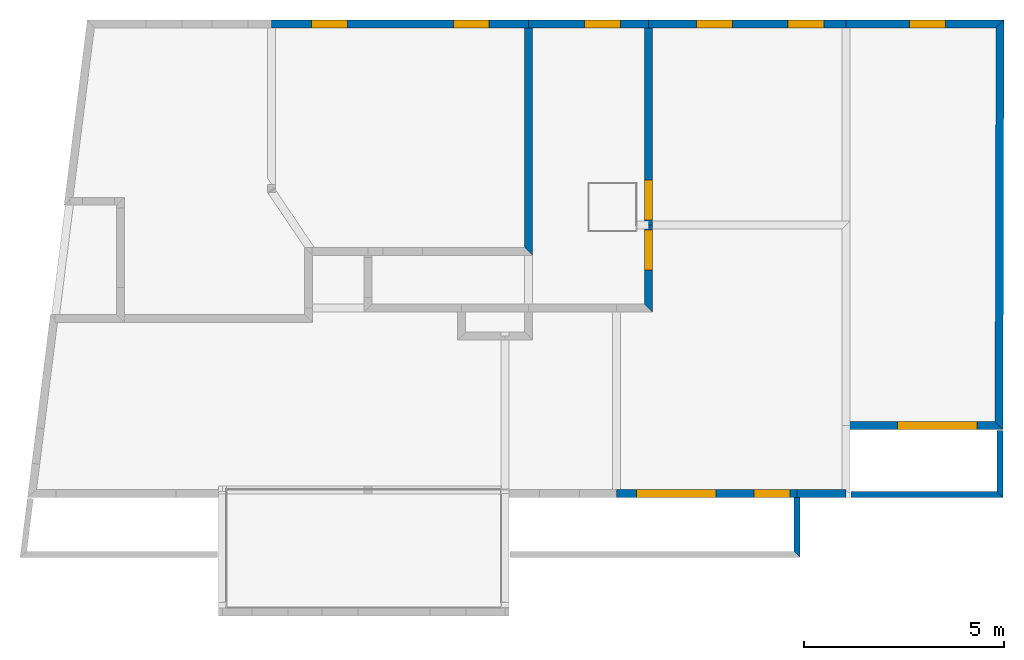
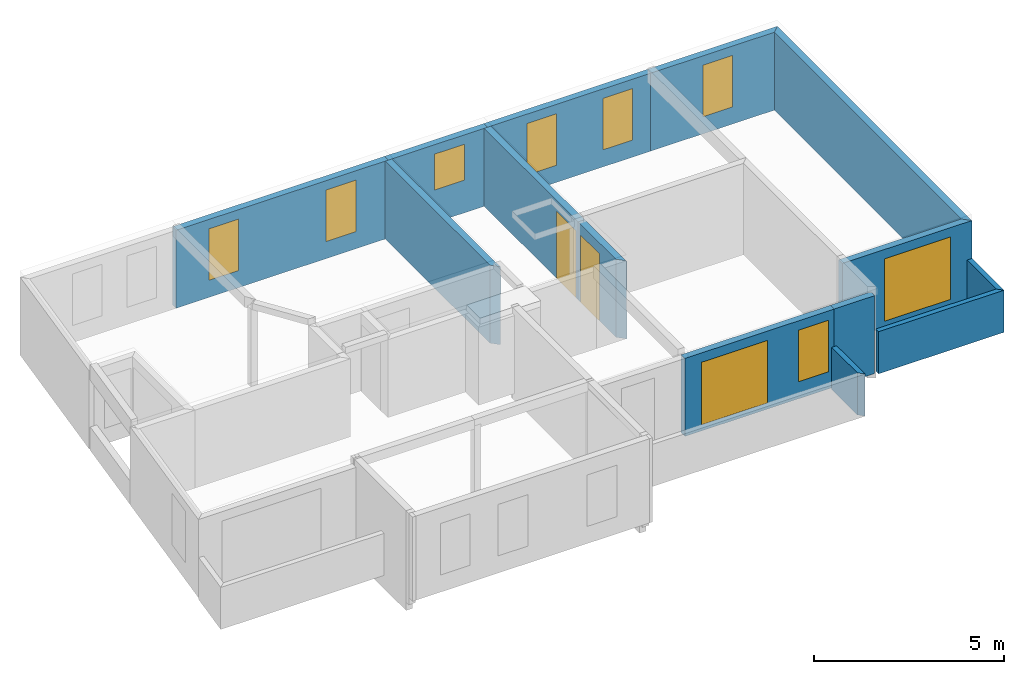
# One storey, part 10 of 11: 14 walls, 9 windows, 2 doors, 11 openings.
"""IFC2X3 building model written with IfcOpenShell, lengths in metres."""

from ifc_helpers import new_model, si_unit, direction, frame, origin_with_axes, origin_2d, place, context, subcontext, project, spatial, polyline, rectangle, outline, extrude, material, layer, layer_set, layer_usage, type_object, element, fill, save


model = new_model("IFC2X3")

# Units and contexts
model_context = context("Model", 3, precision=0.0001, world=origin_with_axes(), true_north=direction((0.0, 1.0)))
plan_context = context("Plan", 2, precision=0.0001, world=origin_with_axes(), true_north=direction((0.0, 1.0)))
body_context = subcontext(model_context, "Body", "Model", "MODEL_VIEW")
ifc_project = project(units=[si_unit("MASSUNIT", "GRAM", prefix="KILO"), si_unit("AREAUNIT", "SQUARE_METRE"), si_unit("LENGTHUNIT", "METRE"), si_unit("VOLUMEUNIT", "CUBIC_METRE")], contexts=[plan_context, model_context])

# Site, building, storey
site_placement = place(None, origin_with_axes())
site = spatial("IfcSite", under=ifc_project, at=site_placement, Name="$", CompositionType="ELEMENT")
building_placement = place(site_placement, origin_with_axes())
building = spatial("IfcBuilding", under=site, at=building_placement, Name="Classeur ENS Ensemble", CompositionType="ELEMENT")
storey_placement = place(building_placement, frame((-3.040468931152, -16.07714394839, 6.03), z_axis=(0.0, 0.0, 1.0), x_axis=(1.0, 0.0, 0.0)))
storey = spatial("IfcBuildingStorey", under=building, at=storey_placement, Name="003 R+2", CompositionType="ELEMENT", Elevation=6.03)

# Walls
ifc_material_1 = material(Name="mur BBM 15 cm")
ifc_layer_1 = layer(ifc_material_1, 0.1500000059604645)
ifc_layer_set_1 = layer_set([ifc_layer_1], Name="mur BBM 15 cm+")
ifc_layer_usage_1 = layer_usage(ifc_layer_set_1, "AXIS2", "POSITIVE", -0.07500000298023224)
wall_type = type_object("IfcWallType", PredefinedType="STANDARD")
wall_1_placement = place(storey_placement, frame((20.84097535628, 2.672143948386, -0.05000000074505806), z_axis=(0.0, 0.0, 1.0), x_axis=(0.0, 1.0, 0.0)))
element("IfcWall", 1, at=wall_1_placement, inside=storey, type_object=wall_type, material=ifc_layer_usage_1, Name="mur BBM 15 cm", context=body_context, shape_type="SweptSolid", held_by="IfcProductRepresentation", body=[
    extrude(outline(polyline([(0.07500000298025, 0.07500000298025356), (0.07500000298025, 0.07500000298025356), (0.07500000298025, 0.07500000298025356), (1.4249999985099, 0.07500000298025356), (1.4249999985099, 0.07500000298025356), (1.4249999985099, 0.07500000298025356), (1.4249999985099, -0.07500000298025), (1.4249999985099, -0.07500000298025), (1.4249999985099, -0.07500000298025), (-0.07500000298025, -0.07500000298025), (-0.07500000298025, -0.07500000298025), (-0.07500000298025, -0.07500000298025), (0.07500000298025, 0.07500000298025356)])), origin_with_axes(), (0.0, 0.0, 1.0), 1.350000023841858),
])
ifc_material_2 = material(Name="mur BBM 15 cm")
ifc_layer_2 = layer(ifc_material_2, 0.1500000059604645)
ifc_layer_set_2 = layer_set([ifc_layer_2], Name="mur BBM 15 cm+")
ifc_layer_usage_2 = layer_usage(ifc_layer_set_2, "AXIS2", "POSITIVE", -0.07500000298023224)
wall_2_placement = place(storey_placement, frame((25.91650726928, 4.172143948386, -0.05000000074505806), z_axis=(0.0, 0.0, 1.0), x_axis=(0.002535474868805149, 0.9999967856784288, 0.0)))
element("IfcWall", 2, at=wall_2_placement, inside=storey, type_object=wall_type, material=ifc_layer_usage_2, Name="mur BBM 15 cm", context=body_context, shape_type="SweptSolid", held_by="IfcProductRepresentation", body=[
    extrude(outline(polyline([(0.07481008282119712, 0.0750000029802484), (0.07481008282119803, 0.07500000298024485), (0.07481008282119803, 0.07500000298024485), (1.604858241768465, 0.07500000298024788), (1.604858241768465, 0.07500000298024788), (1.604858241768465, 0.07500000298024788), (1.604858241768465, -0.07500000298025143), (1.604858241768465, -0.07500000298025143), (1.604858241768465, -0.07500000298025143), (-0.07481008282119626, -0.07500000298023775), (-0.07481008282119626, -0.07500000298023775), (-0.07481008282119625, -0.0750000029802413), (0.07481008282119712, 0.0750000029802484)])), origin_with_axes(), (0.0, 0.0, 1.0), 1.350000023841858),
])
ifc_material_3 = material(Name="mur BBM 15 cm")
ifc_layer_3 = layer(ifc_material_3, 0.1500000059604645)
ifc_layer_set_3 = layer_set([ifc_layer_3], Name="mur BBM 15 cm+")
ifc_layer_usage_3 = layer_usage(ifc_layer_set_3, "AXIS2", "POSITIVE", -0.07500000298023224)
wall_3_placement = place(storey_placement, frame((22.18907065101, 4.172143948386, -0.05000000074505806), z_axis=(0.0, 0.0, 1.0), x_axis=(0.9999999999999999, 0.0, 0.0)))
element("IfcWall", 3, at=wall_3_placement, inside=storey, type_object=wall_type, material=ifc_layer_usage_3, Name="mur BBM 15 cm", context=body_context, shape_type="SweptSolid", held_by="IfcProductRepresentation", body=[
    extrude(outline(polyline([(0.0, 0.0750000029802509), (0.0, 0.0750000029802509), (0.0, 0.0750000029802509), (3.652626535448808, 0.0750000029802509), (3.652626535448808, 0.0750000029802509), (3.652626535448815, 0.0750000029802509), (3.80224670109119, -0.07500000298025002), (3.802246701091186, -0.07500000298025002), (3.802246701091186, -0.07500000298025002), (0.0, -0.07500000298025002), (0.0, -0.07500000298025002), (0.0, -0.07500000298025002), (0.0, 0.0750000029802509)])), origin_with_axes(), (0.0, 0.0, 1.0), 1.350000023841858),
])
ifc_material_4 = material(Name="mur BBM 20 cm")
ifc_layer_4 = layer(ifc_material_4, 0.2000000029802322)
ifc_layer_set_4 = layer_set([ifc_layer_4], Name="mur BBM 20 cm+")
ifc_layer_usage_4 = layer_usage(ifc_layer_set_4, "AXIS2", "POSITIVE", -0.1000000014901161)
wall_4_placement = place(storey_placement, frame((25.89588071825, 5.897187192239, 0.0), z_axis=(0.0, 0.0, 1.0), x_axis=(0.002540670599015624, 0.9999967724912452, 0.0)))
element("IfcWall", 4, at=wall_4_placement, inside=storey, type_object=wall_type, material=ifc_layer_usage_4, Name="mur BBM 20 cm", context=body_context, shape_type="SweptSolid", held_by="IfcProductRepresentation", body=[
    extrude(outline(polyline([(0.09974625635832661, 0.1000000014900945), (0.0997462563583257, 0.1000000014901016), (0.0997462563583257, 0.1000000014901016), (9.959734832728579, 0.1000000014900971), (9.959734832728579, 0.1000000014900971), (9.95973483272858, 0.1000000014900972), (10.16024361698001, -0.1000000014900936), (10.16024361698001, -0.1000000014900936), (10.16024361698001, -0.1000000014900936), (-0.09974625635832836, -0.1000000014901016), (-0.09974625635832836, -0.1000000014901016), (-0.09974625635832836, -0.1000000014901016), (0.09974625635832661, 0.1000000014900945)])), origin_with_axes(), (0.0, 0.0, 1.0), 2.5),
])

# Wall, opening, window
ifc_material_5 = material(Name="mur BBM 20 cm")
ifc_layer_5 = layer(ifc_material_5, 0.2000000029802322)
ifc_layer_set_5 = layer_set([ifc_layer_5], Name="mur BBM 20 cm+")
ifc_layer_usage_5 = layer_usage(ifc_layer_set_5, "AXIS2", "POSITIVE", -0.1000000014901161)
wall_5_placement = place(storey_placement, frame((22.06901778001, 5.897187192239, 0.0), z_axis=(0.0, 0.0, 1.0), x_axis=(1.0, 0.0, 0.0)))
wall_5 = element("IfcWall", 5, at=wall_5_placement, inside=storey, type_object=wall_type, material=ifc_layer_usage_5, Name="mur BBM 20 cm", context=body_context, shape_type="SweptSolid", held_by="IfcProductRepresentation", body=[
    extrude(outline(polyline([(0.0, 0.1000000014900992), (0.0, 0.1000000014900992), (0.0, 0.1000000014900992), (3.727116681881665, 0.1000000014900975), (3.727116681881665, 0.1000000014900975), (3.727116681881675, 0.1000000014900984), (3.926609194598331, -0.1000000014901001), (3.926609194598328, -0.1000000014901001), (3.926609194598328, -0.1000000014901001), (0.0, -0.1000000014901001), (0.0, -0.1000000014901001), (0.0, -0.1000000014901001), (0.0, 0.1000000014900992)])), origin_with_axes(), (0.0, 0.0, 1.0), 2.5),
])
opening_1_placement = place(wall_5_placement, frame((2.279156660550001, 0.1000000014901, 0.2000000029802), z_axis=(0.0, 0.0, 1.0), x_axis=(1.0, 0.0, 0.0)))
opening_1 = element("IfcOpeningElement", 6, at=opening_1_placement, cuts=wall_5, Name="BL 200 x 200", context=body_context, shape_type="SweptSolid", held_by="IfcProductRepresentation", body=[
    extrude(rectangle(XDim=2.0, YDim=2.0, at=origin_2d()), frame((0.0, 0.0, 1.0), z_axis=(0.0, -1.0, 0.0), x_axis=(1.0, 0.0, 0.0)), (0.0, 0.0, 1.0), 0.2000000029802),
])
window_1_placement = place(opening_1_placement, origin_with_axes())
window_1 = element("IfcWindow", 7, at=window_1_placement, inside=storey, Name="BL 200 x 200", OverallHeight=2.0, OverallWidth=2.0, context=body_context, shape_type="SweptSolid", held_by="IfcProductRepresentation", body=[
    extrude(rectangle(XDim=2.0, YDim=2.0, at=origin_2d()), frame((0.0, 0.0, 1.0), z_axis=(0.0, -1.0, 0.0), x_axis=(1.0, 0.0, 0.0)), (0.0, 0.0, 1.0), 0.2000000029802),
])
fill(opening_1, window_1)

# Wall
ifc_material_6 = material(Name="voile BA 20 cm")
ifc_layer_6 = layer(ifc_material_6, 0.2000000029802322)
ifc_layer_set_6 = layer_set([ifc_layer_6], Name="voile BA 20 cm+")
ifc_layer_usage_6 = layer_usage(ifc_layer_set_6, "AXIS2", "POSITIVE", -0.1000000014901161)
wall_6_placement = place(storey_placement, frame((14.11597535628, 10.25714394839, 0.0), z_axis=(0.0, 0.0, 1.0), x_axis=(0.0, 1.0, 0.0)))
element("IfcWall", 8, at=wall_6_placement, inside=storey, type_object=wall_type, material=ifc_layer_usage_6, Name="voile BA 20 cm", context=body_context, shape_type="SweptSolid", held_by="IfcProductRepresentation", body=[
    extrude(outline(polyline([(0.1000000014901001, 0.1000000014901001), (0.1000000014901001, 0.1000000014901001), (0.1000000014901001, 0.1000000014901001), (5.599999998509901, 0.1000000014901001), (5.599999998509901, 0.1000000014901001), (5.599999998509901, 0.1000000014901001), (5.599999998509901, -0.1000000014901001), (5.599999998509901, -0.1000000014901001), (5.599999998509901, -0.1000000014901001), (-0.1000000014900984, -0.1000000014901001), (-0.1000000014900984, -0.1000000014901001), (-0.1000000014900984, -0.1000000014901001), (0.1000000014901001, 0.1000000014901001)])), origin_with_axes(), (0.0, 0.0, 1.0), 2.5),
])

# Wall, opening, window
ifc_material_7 = material(Name="mur BBM 20 cm")
ifc_layer_7 = layer(ifc_material_7, 0.2000000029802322)
ifc_layer_set_7 = layer_set([ifc_layer_7], Name="mur BBM 20 cm+")
ifc_layer_usage_7 = layer_usage(ifc_layer_set_7, "AXIS2", "POSITIVE", -0.1000000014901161)
wall_7_placement = place(storey_placement, frame((14.11597535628, 15.95714394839, 0.0), z_axis=(0.0, 0.0, 1.0), x_axis=(1.0, 0.0, 0.0)))
wall_7 = element("IfcWall", 9, at=wall_7_placement, inside=storey, type_object=wall_type, material=ifc_layer_usage_7, Name="mur BBM 20 cm", context=body_context, shape_type="SweptSolid", held_by="IfcProductRepresentation", body=[
    extrude(outline(polyline([(0.0, 0.1000000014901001), (0.0, 0.1000000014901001), (0.0, 0.1000000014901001), (3.0, 0.1000000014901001), (3.0, 0.1000000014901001), (3.0, 0.1000000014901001), (3.0, -0.1000000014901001), (2.899999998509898, -0.1000000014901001), (2.899999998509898, -0.1000000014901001), (0.1000000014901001, -0.1000000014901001), (0.1000000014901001, -0.1000000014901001), (0.0, -0.1000000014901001), (0.0, 0.1000000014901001)])), origin_with_axes(), (0.0, 0.0, 1.0), 2.5),
])
opening_2_placement = place(wall_7_placement, frame((1.849349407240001, 0.1000000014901, 1.049999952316), z_axis=(0.0, 0.0, 1.0), x_axis=(1.0, 0.0, 0.0)))
opening_2 = element("IfcOpeningElement", 10, at=opening_2_placement, cuts=wall_7, Name="BL 90 x 115", context=body_context, shape_type="SweptSolid", held_by="IfcProductRepresentation", body=[
    extrude(rectangle(XDim=0.8999999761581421, YDim=1.149999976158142, at=origin_2d()), frame((0.0, 0.0, 0.574999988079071), z_axis=(0.0, -1.0, 0.0), x_axis=(1.0, 0.0, 0.0)), (0.0, 0.0, 1.0), 0.2000000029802),
])
window_2_placement = place(opening_2_placement, origin_with_axes())
window_2 = element("IfcWindow", 11, at=window_2_placement, inside=storey, Name="BL 90 x 115", OverallHeight=1.149999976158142, OverallWidth=0.8999999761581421, context=body_context, shape_type="SweptSolid", held_by="IfcProductRepresentation", body=[
    extrude(rectangle(XDim=0.8999999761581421, YDim=1.149999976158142, at=origin_2d()), frame((0.0, 0.0, 0.574999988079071), z_axis=(0.0, -1.0, 0.0), x_axis=(1.0, 0.0, 0.0)), (0.0, 0.0, 1.0), 0.2000000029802),
])
fill(opening_2, window_2)

# Wall, opening, door
ifc_material_8 = material(Name="voile BA 20 cm")
ifc_layer_8 = layer(ifc_material_8, 0.2000000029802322)
ifc_layer_set_8 = layer_set([ifc_layer_8], Name="voile BA 20 cm+")
ifc_layer_usage_8 = layer_usage(ifc_layer_set_8, "AXIS2", "POSITIVE", -0.1000000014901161)
wall_8_placement = place(storey_placement, frame((17.11597535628, 8.837143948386, 0.0), z_axis=(0.0, 0.0, 1.0), x_axis=(0.0, 1.0, 0.0)))
wall_8 = element("IfcWall", 12, at=wall_8_placement, inside=storey, type_object=wall_type, material=ifc_layer_usage_8, Name="voile BA 20 cm", context=body_context, shape_type="SweptSolid", held_by="IfcProductRepresentation", body=[
    extrude(outline(polyline([(0.1000000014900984, 0.1000000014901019), (0.1000000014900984, 0.1000000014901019), (0.1000000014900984, 0.1000000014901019), (2.079956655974, 0.1000000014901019), (2.079956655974, 0.1000000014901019), (2.079956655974, 0.1000000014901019), (2.079956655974, -0.1000000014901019), (2.079956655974, -0.1000000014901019), (2.079956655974, -0.1000000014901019), (-0.1000000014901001, -0.1000000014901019), (-0.1000000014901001, -0.1000000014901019), (-0.1000000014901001, -0.1000000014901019), (0.1000000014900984, 0.1000000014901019)])), origin_with_axes(), (0.0, 0.0, 1.0), 2.5),
])
opening_3_placement = place(wall_8_placement, frame((1.455155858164, 0.1000000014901, 0.0), z_axis=(0.0, 0.0, 1.0), x_axis=(1.0, 0.0, 0.0)))
opening_3 = element("IfcOpeningElement", 13, at=opening_3_placement, cuts=wall_8, Name="PE 93 x 215", context=body_context, shape_type="SweptSolid", held_by="IfcProductRepresentation", body=[
    extrude(rectangle(XDim=1.0, YDim=2.150000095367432, at=origin_2d()), frame((0.0, 0.0, 1.075000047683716), z_axis=(0.0, -1.0, 0.0), x_axis=(1.0, 0.0, 0.0)), (0.0, 0.0, 1.0), 0.2000000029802),
])
door_1_placement = place(opening_3_placement, origin_with_axes())
door_1 = element("IfcDoor", 14, at=door_1_placement, inside=storey, Name="PE 93 x 215", OverallHeight=2.150000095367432, OverallWidth=1.0, context=body_context, shape_type="SweptSolid", held_by="IfcProductRepresentation", body=[
    extrude(rectangle(XDim=1.0, YDim=2.150000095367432, at=origin_2d()), frame((0.0, 0.0, 1.075000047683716), z_axis=(0.0, -1.0, 0.0), x_axis=(1.0, 0.0, 0.0)), (0.0, 0.0, 1.0), 0.2000000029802),
])
fill(opening_3, door_1)

ifc_material_9 = material(Name="voile BA 20 cm")
ifc_layer_9 = layer(ifc_material_9, 0.2000000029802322)
ifc_layer_set_9 = layer_set([ifc_layer_9], Name="voile BA 20 cm+")
ifc_layer_usage_9 = layer_usage(ifc_layer_set_9, "AXIS2", "POSITIVE", -0.1000000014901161)
wall_9_placement = place(storey_placement, frame((17.11597535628, 10.91710060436, 0.0), z_axis=(0.0, 0.0, 1.0), x_axis=(0.0, 1.0, 0.0)))
wall_9 = element("IfcWall", 15, at=wall_9_placement, inside=storey, type_object=wall_type, material=ifc_layer_usage_9, Name="voile BA 20 cm", context=body_context, shape_type="SweptSolid", held_by="IfcProductRepresentation", body=[
    extrude(outline(polyline([(0.0, 0.1000000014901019), (0.0, 0.1000000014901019), (0.0, 0.1000000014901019), (4.9400433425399, 0.1000000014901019), (4.9400433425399, 0.1000000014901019), (4.9400433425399, 0.1000000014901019), (4.9400433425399, -0.1000000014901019), (4.9400433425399, -0.1000000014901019), (4.9400433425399, -0.1000000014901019), (0.0, -0.1000000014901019), (0.0, -0.1000000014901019), (0.0, -0.1000000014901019), (0.0, 0.1000000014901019)])), origin_with_axes(), (0.0, 0.0, 1.0), 2.5),
])
opening_4_placement = place(wall_9_placement, frame((0.6260863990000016, 0.1000000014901, 0.0), z_axis=(0.0, 0.0, 1.0), x_axis=(1.0, 0.0, 0.0)))
opening_4 = element("IfcOpeningElement", 16, at=opening_4_placement, cuts=wall_9, Name="PE 93 x 215", context=body_context, shape_type="SweptSolid", held_by="IfcProductRepresentation", body=[
    extrude(rectangle(XDim=1.0, YDim=2.150000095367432, at=origin_2d()), frame((0.0, 0.0, 1.075000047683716), z_axis=(0.0, -1.0, 0.0), x_axis=(1.0, 0.0, 0.0)), (0.0, 0.0, 1.0), 0.2000000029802),
])
door_2_placement = place(opening_4_placement, origin_with_axes())
door_2 = element("IfcDoor", 17, at=door_2_placement, inside=storey, Name="PE 93 x 215", OverallHeight=2.150000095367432, OverallWidth=1.0, context=body_context, shape_type="SweptSolid", held_by="IfcProductRepresentation", body=[
    extrude(rectangle(XDim=1.0, YDim=2.150000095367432, at=origin_2d()), frame((0.0, 0.0, 1.075000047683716), z_axis=(0.0, -1.0, 0.0), x_axis=(1.0, 0.0, 0.0)), (0.0, 0.0, 1.0), 0.2000000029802),
])
fill(opening_4, door_2)

# Wall, openings, windows
ifc_material_10 = material(Name="mur BBM 20 cm")
ifc_layer_10 = layer(ifc_material_10, 0.2000000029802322)
ifc_layer_set_10 = layer_set([ifc_layer_10], Name="mur BBM 20 cm+")
ifc_layer_usage_10 = layer_usage(ifc_layer_set_10, "AXIS2", "POSITIVE", -0.1000000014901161)
wall_10_placement = place(storey_placement, frame((17.11597535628, 15.95714394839, 0.0), z_axis=(0.0, 0.0, 1.0), x_axis=(1.0, 0.0, 0.0)))
wall_10 = element("IfcWall", 18, at=wall_10_placement, inside=storey, type_object=wall_type, material=ifc_layer_usage_10, Name="mur BBM 20 cm", context=body_context, shape_type="SweptSolid", held_by="IfcProductRepresentation", body=[
    extrude(outline(polyline([(0.0, 0.1000000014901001), (0.0, 0.1000000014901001), (0.0, 0.1000000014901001), (4.952895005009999, 0.1000000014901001), (4.952895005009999, 0.1000000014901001), (4.952895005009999, 0.1000000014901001), (4.952895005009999, -0.1000000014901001), (4.952895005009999, -0.1000000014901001), (4.952895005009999, -0.1000000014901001), (0.1000000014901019, -0.1000000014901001), (0.1000000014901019, -0.1000000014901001), (0.0, -0.1000000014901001), (0.0, 0.1000000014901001)])), origin_with_axes(), (0.0, 0.0, 1.0), 2.5),
])
opening_5_placement = place(wall_10_placement, frame((1.650839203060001, 0.1000000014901, 0.5500000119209), z_axis=(0.0, 0.0, 1.0), x_axis=(1.0, 0.0, 0.0)))
opening_5 = element("IfcOpeningElement", 19, at=opening_5_placement, cuts=wall_10, Name="BL 90 x 165", context=body_context, shape_type="SweptSolid", held_by="IfcProductRepresentation", body=[
    extrude(rectangle(XDim=0.8999999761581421, YDim=1.649999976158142, at=origin_2d()), frame((0.0, 0.0, 0.824999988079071), z_axis=(0.0, -1.0, 0.0), x_axis=(1.0, 0.0, 0.0)), (0.0, 0.0, 1.0), 0.2000000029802),
])
opening_6_placement = place(wall_10_placement, frame((3.95010423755, 0.1000000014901, 0.5500000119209), z_axis=(0.0, 0.0, 1.0), x_axis=(1.0, 0.0, 0.0)))
opening_6 = element("IfcOpeningElement", 20, at=opening_6_placement, cuts=wall_10, Name="BL 90 x 165", context=body_context, shape_type="SweptSolid", held_by="IfcProductRepresentation", body=[
    extrude(rectangle(XDim=0.8999999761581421, YDim=1.649999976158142, at=origin_2d()), frame((0.0, 0.0, 0.824999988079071), z_axis=(0.0, -1.0, 0.0), x_axis=(1.0, 0.0, 0.0)), (0.0, 0.0, 1.0), 0.2000000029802),
])
window_3_placement = place(opening_5_placement, origin_with_axes())
window_3 = element("IfcWindow", 21, at=window_3_placement, inside=storey, Name="BL 90 x 165", OverallHeight=1.649999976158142, OverallWidth=0.8999999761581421, context=body_context, shape_type="SweptSolid", held_by="IfcProductRepresentation", body=[
    extrude(rectangle(XDim=0.8999999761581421, YDim=1.649999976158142, at=origin_2d()), frame((0.0, 0.0, 0.824999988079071), z_axis=(0.0, -1.0, 0.0), x_axis=(1.0, 0.0, 0.0)), (0.0, 0.0, 1.0), 0.2000000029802),
])
fill(opening_5, window_3)
window_4_placement = place(opening_6_placement, origin_with_axes())
window_4 = element("IfcWindow", 22, at=window_4_placement, inside=storey, Name="BL 90 x 165", OverallHeight=1.649999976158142, OverallWidth=0.8999999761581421, context=body_context, shape_type="SweptSolid", held_by="IfcProductRepresentation", body=[
    extrude(rectangle(XDim=0.8999999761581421, YDim=1.649999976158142, at=origin_2d()), frame((0.0, 0.0, 0.824999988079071), z_axis=(0.0, -1.0, 0.0), x_axis=(1.0, 0.0, 0.0)), (0.0, 0.0, 1.0), 0.2000000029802),
])
fill(opening_6, window_4)

# Wall
ifc_material_11 = material(Name="mur BBM 20 cm")
ifc_layer_11 = layer(ifc_material_11, 0.2000000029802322)
ifc_layer_set_11 = layer_set([ifc_layer_11], Name="mur BBM 20 cm+")
ifc_layer_usage_11 = layer_usage(ifc_layer_set_11, "AXIS2", "POSITIVE", -0.1000000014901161)
wall_11_placement = place(storey_placement, frame((20.84097535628, 4.197143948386, 0.0), z_axis=(0.0, 0.0, 1.0), x_axis=(0.9999999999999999, 0.0, 0.0)))
element("IfcWall", 23, at=wall_11_placement, inside=storey, type_object=wall_type, material=ifc_layer_usage_11, Name="mur BBM 20 cm", context=body_context, shape_type="SweptSolid", held_by="IfcProductRepresentation", body=[
    extrude(outline(polyline([(0.0, 0.1000000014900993), (0.0, 0.1000000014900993), (0.0, 0.1000000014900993), (1.2280882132, 0.1000000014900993), (1.2280882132, 0.1000000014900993), (1.2280882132, 0.1000000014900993), (1.2280882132, -0.1000000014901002), (1.2280882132, -0.1000000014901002), (1.2280882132, -0.1000000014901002), (0.07500000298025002, -0.1000000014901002), (0.07500000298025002, -0.1000000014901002), (0.0, -0.1000000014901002), (0.0, 0.1000000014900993)])), origin_with_axes(), (0.0, 0.0, 1.0), 2.5),
])

# Wall, opening, window
ifc_material_12 = material(Name="mur BBM 20 cm")
ifc_layer_12 = layer(ifc_material_12, 0.2000000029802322)
ifc_layer_set_12 = layer_set([ifc_layer_12], Name="mur BBM 20 cm+")
ifc_layer_usage_12 = layer_usage(ifc_layer_set_12, "AXIS2", "POSITIVE", -0.1000000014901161)
wall_12_placement = place(storey_placement, frame((22.06887036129, 15.95714394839, 0.0), z_axis=(0.0, 0.0, 1.0), x_axis=(1.0, 0.0, 0.0)))
wall_12 = element("IfcWall", 24, at=wall_12_placement, inside=storey, type_object=wall_type, material=ifc_layer_usage_12, Name="mur BBM 20 cm", context=body_context, shape_type="SweptSolid", held_by="IfcProductRepresentation", body=[
    extrude(outline(polyline([(0.0, 0.1000000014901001), (0.0, 0.1000000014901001), (0.0, 0.1000000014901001), (3.95282386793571, 0.1000000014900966), (3.95282386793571, 0.1000000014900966), (3.952823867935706, 0.1000000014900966), (3.752315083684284, -0.1000000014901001), (3.752315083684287, -0.1000000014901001), (3.752315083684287, -0.1000000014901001), (0.0, -0.1000000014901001), (0.0, -0.1000000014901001), (0.0, -0.1000000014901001), (0.0, 0.1000000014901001)])), origin_with_axes(), (0.0, 0.0, 1.0), 2.5),
])
opening_7_placement = place(wall_12_placement, frame((2.036328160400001, 0.1000000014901, 0.5500000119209), z_axis=(0.0, 0.0, 1.0), x_axis=(1.0, 0.0, 0.0)))
opening_7 = element("IfcOpeningElement", 25, at=opening_7_placement, cuts=wall_12, Name="BL 90 x 165", context=body_context, shape_type="SweptSolid", held_by="IfcProductRepresentation", body=[
    extrude(rectangle(XDim=0.8999999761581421, YDim=1.649999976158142, at=origin_2d()), frame((0.0, 0.0, 0.824999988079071), z_axis=(0.0, -1.0, 0.0), x_axis=(1.0, 0.0, 0.0)), (0.0, 0.0, 1.0), 0.2000000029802),
])
window_5_placement = place(opening_7_placement, origin_with_axes())
window_5 = element("IfcWindow", 26, at=window_5_placement, inside=storey, Name="BL 90 x 165", OverallHeight=1.649999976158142, OverallWidth=0.8999999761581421, context=body_context, shape_type="SweptSolid", held_by="IfcProductRepresentation", body=[
    extrude(rectangle(XDim=0.8999999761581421, YDim=1.649999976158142, at=origin_2d()), frame((0.0, 0.0, 0.824999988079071), z_axis=(0.0, -1.0, 0.0), x_axis=(1.0, 0.0, 0.0)), (0.0, 0.0, 1.0), 0.2000000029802),
])
fill(opening_7, window_5)

# Wall, openings, windows
ifc_material_13 = material(Name="mur BBM 20 cm")
ifc_layer_13 = layer(ifc_material_13, 0.2000000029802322)
ifc_layer_set_13 = layer_set([ifc_layer_13], Name="mur BBM 20 cm+")
ifc_layer_usage_13 = layer_usage(ifc_layer_set_13, "AXIS2", "POSITIVE", -0.1000000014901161)
wall_13_placement = place(storey_placement, frame((7.676247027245, 15.95714394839, 0.0), z_axis=(0.0, 0.0, 1.0), x_axis=(0.9999999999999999, 0.0, 0.0)))
wall_13 = element("IfcWall", 27, at=wall_13_placement, inside=storey, type_object=wall_type, material=ifc_layer_usage_13, Name="mur BBM 20 cm", context=body_context, shape_type="SweptSolid", held_by="IfcProductRepresentation", body=[
    extrude(outline(polyline([(0.0, 0.1000000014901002), (0.0, 0.1000000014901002), (0.0, 0.1000000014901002), (6.439728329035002, 0.1000000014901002), (6.439728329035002, 0.1000000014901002), (6.439728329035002, 0.1000000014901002), (6.439728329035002, -0.1000000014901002), (6.339728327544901, -0.1000000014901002), (6.339728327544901, -0.1000000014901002), (0.0, -0.1000000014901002), (0.0, -0.1000000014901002), (0.0, -0.1000000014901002), (0.0, 0.1000000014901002)])), origin_with_axes(), (0.0, 0.0, 1.0), 2.5),
])
opening_8_placement = place(wall_13_placement, frame((1.448714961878, 0.1000000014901, 0.5500000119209), z_axis=(0.0, 0.0, 1.0), x_axis=(1.0, 0.0, 0.0)))
opening_8 = element("IfcOpeningElement", 28, at=opening_8_placement, cuts=wall_13, Name="BL 90 x 165", context=body_context, shape_type="SweptSolid", held_by="IfcProductRepresentation", body=[
    extrude(rectangle(XDim=0.8999999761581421, YDim=1.649999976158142, at=origin_2d()), frame((0.0, 0.0, 0.824999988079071), z_axis=(0.0, -1.0, 0.0), x_axis=(1.0, 0.0, 0.0)), (0.0, 0.0, 1.0), 0.2000000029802),
])
opening_9_placement = place(wall_13_placement, frame((5.001191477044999, 0.1000000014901, 0.5500000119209), z_axis=(0.0, 0.0, 1.0), x_axis=(1.0, 0.0, 0.0)))
opening_9 = element("IfcOpeningElement", 29, at=opening_9_placement, cuts=wall_13, Name="BL 90 x 165", context=body_context, shape_type="SweptSolid", held_by="IfcProductRepresentation", body=[
    extrude(rectangle(XDim=0.8999999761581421, YDim=1.649999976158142, at=origin_2d()), frame((0.0, 0.0, 0.824999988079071), z_axis=(0.0, -1.0, 0.0), x_axis=(1.0, 0.0, 0.0)), (0.0, 0.0, 1.0), 0.2000000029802),
])
window_6_placement = place(opening_8_placement, origin_with_axes())
window_6 = element("IfcWindow", 30, at=window_6_placement, inside=storey, Name="BL 90 x 165", OverallHeight=1.649999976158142, OverallWidth=0.8999999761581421, context=body_context, shape_type="SweptSolid", held_by="IfcProductRepresentation", body=[
    extrude(rectangle(XDim=0.8999999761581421, YDim=1.649999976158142, at=origin_2d()), frame((0.0, 0.0, 0.824999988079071), z_axis=(0.0, -1.0, 0.0), x_axis=(1.0, 0.0, 0.0)), (0.0, 0.0, 1.0), 0.2000000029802),
])
fill(opening_8, window_6)
window_7_placement = place(opening_9_placement, origin_with_axes())
window_7 = element("IfcWindow", 31, at=window_7_placement, inside=storey, Name="BL 90 x 165", OverallHeight=1.649999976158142, OverallWidth=0.8999999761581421, context=body_context, shape_type="SweptSolid", held_by="IfcProductRepresentation", body=[
    extrude(rectangle(XDim=0.8999999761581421, YDim=1.649999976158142, at=origin_2d()), frame((0.0, 0.0, 0.824999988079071), z_axis=(0.0, -1.0, 0.0), x_axis=(1.0, 0.0, 0.0)), (0.0, 0.0, 1.0), 0.2000000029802),
])
fill(opening_9, window_7)

ifc_material_14 = material(Name="mur BBM 20 cm")
ifc_layer_14 = layer(ifc_material_14, 0.2000000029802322)
ifc_layer_set_14 = layer_set([ifc_layer_14], Name="mur BBM 20 cm+")
ifc_layer_usage_14 = layer_usage(ifc_layer_set_14, "AXIS2", "POSITIVE", -0.1000000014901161)
wall_14_placement = place(storey_placement, frame((16.3166202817, 4.197143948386, 0.0), z_axis=(0.0, 0.0, 1.0), x_axis=(1.0, 0.0, 0.0)))
wall_14 = element("IfcWall", 32, at=wall_14_placement, inside=storey, type_object=wall_type, material=ifc_layer_usage_14, Name="mur BBM 20 cm", context=body_context, shape_type="SweptSolid", held_by="IfcProductRepresentation", body=[
    extrude(outline(polyline([(0.0, 0.1000000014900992), (0.0, 0.1000000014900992), (0.0, 0.1000000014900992), (4.524355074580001, 0.1000000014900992), (4.524355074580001, 0.1000000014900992), (4.524355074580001, 0.1000000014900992), (4.524355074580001, -0.1000000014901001), (4.449355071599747, -0.1000000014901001), (4.449355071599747, -0.1000000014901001), (0.0, -0.1000000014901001), (0.0, -0.1000000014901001), (0.0, -0.1000000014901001), (0.0, 0.1000000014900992)])), origin_with_axes(), (0.0, 0.0, 1.0), 2.5),
])
opening_10_placement = place(wall_14_placement, frame((3.895840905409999, 0.1000000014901, 0.5500000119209), z_axis=(0.0, 0.0, 1.0), x_axis=(1.0, 0.0, 0.0)))
opening_10 = element("IfcOpeningElement", 33, at=opening_10_placement, cuts=wall_14, Name="BL 90 x 165", context=body_context, shape_type="SweptSolid", held_by="IfcProductRepresentation", body=[
    extrude(rectangle(XDim=0.8999999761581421, YDim=1.649999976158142, at=origin_2d()), frame((0.0, 0.0, 0.824999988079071), z_axis=(0.0, -1.0, 0.0), x_axis=(1.0, 0.0, 0.0)), (0.0, 0.0, 1.0), 0.2000000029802),
])
opening_11_placement = place(wall_14_placement, frame((1.49675791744, 0.1000000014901, 0.2000000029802), z_axis=(0.0, 0.0, 1.0), x_axis=(1.0, 0.0, 0.0)))
opening_11 = element("IfcOpeningElement", 34, at=opening_11_placement, cuts=wall_14, Name="BL 200 x 200", context=body_context, shape_type="SweptSolid", held_by="IfcProductRepresentation", body=[
    extrude(rectangle(XDim=2.0, YDim=2.0, at=origin_2d()), frame((0.0, 0.0, 1.0), z_axis=(0.0, -1.0, 0.0), x_axis=(1.0, 0.0, 0.0)), (0.0, 0.0, 1.0), 0.2000000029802),
])
window_8_placement = place(opening_10_placement, origin_with_axes())
window_8 = element("IfcWindow", 35, at=window_8_placement, inside=storey, Name="BL 90 x 165", OverallHeight=1.649999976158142, OverallWidth=0.8999999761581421, context=body_context, shape_type="SweptSolid", held_by="IfcProductRepresentation", body=[
    extrude(rectangle(XDim=0.8999999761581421, YDim=1.649999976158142, at=origin_2d()), frame((0.0, 0.0, 0.824999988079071), z_axis=(0.0, -1.0, 0.0), x_axis=(1.0, 0.0, 0.0)), (0.0, 0.0, 1.0), 0.2000000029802),
])
fill(opening_10, window_8)
window_9_placement = place(opening_11_placement, origin_with_axes())
window_9 = element("IfcWindow", 36, at=window_9_placement, inside=storey, Name="BL 200 x 200", OverallHeight=2.0, OverallWidth=2.0, context=body_context, shape_type="SweptSolid", held_by="IfcProductRepresentation", body=[
    extrude(rectangle(XDim=2.0, YDim=2.0, at=origin_2d()), frame((0.0, 0.0, 1.0), z_axis=(0.0, -1.0, 0.0), x_axis=(1.0, 0.0, 0.0)), (0.0, 0.0, 1.0), 0.2000000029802),
])
fill(opening_11, window_9)

save(model, "model.ifc")
